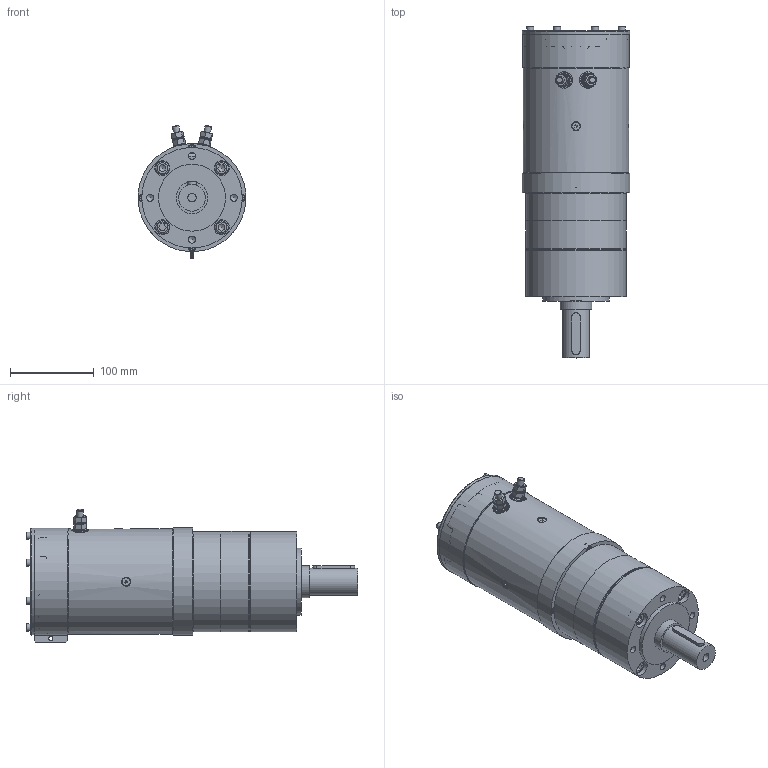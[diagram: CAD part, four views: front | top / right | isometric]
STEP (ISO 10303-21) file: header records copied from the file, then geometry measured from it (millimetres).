
FILE_DESCRIPTION(/* description */ (''),/* implementation_level */ '2;1');
FILE_NAME(/* name */ 'Z:\SITO WEB 2023\Motoriduttori\Motoriduttori DC\D.125 mm\RD125.P120.stp',/* time_stamp */ '2023-09-20T08:02:58+02:00',/* author */ ('cad3'),/* organization */ (''),/* preprocessor_version */ 'ST-DEVELOPER v18.1',/* originating_system */ 'Autodesk Inventor 2022',/* authorisation */ '');
FILE_SCHEMA (('AUTOMOTIVE_DESIGN { 1 0 10303 214 3 1 1 }'));
Products named in the file (1): RD125.P120
Bounding box: 128.51 x 396.5 x 159.22 mm (x, y, z)
Volume: 2182996.1 mm3; surface area: 335463.2 mm2
Topology: 9 solids, 22 shells, 3014 faces, 8666 edges, 5509 vertices
Faces by surface type: plane 2510, cylinder 256, cone 152, torus 51, bspline 35, sphere 10
Full cylindrical faces by diameter (mm): 4.134 x8, 4.48 x4, 5 x18, 5.3 x8, 5.5 x12, 6.5 x4, 8 x6, 8.2 x2, 8.376 x8, 8.4 x4, 8.5 x12, 9 x4, 9.64 x8, 9.9 x2, 10 x4, 10.106 x1, 10.5 x12, 11.5 x2, 13 x2, 16 x5, 17 x2, 18 x4, 20 x2, 21 x1, 22 x1, 32 x1, 33.5 x1, 37 x1, 38 x1, 40 x1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
Entity records: 104204 total; most frequent: CARTESIAN_POINT 20395, ORIENTED_EDGE 17280, DIRECTION 16781, EDGE_CURVE 8640, AXIS2_PLACEMENT_3D 5611, LINE 5559, VECTOR 5559, VERTEX_POINT 5517
